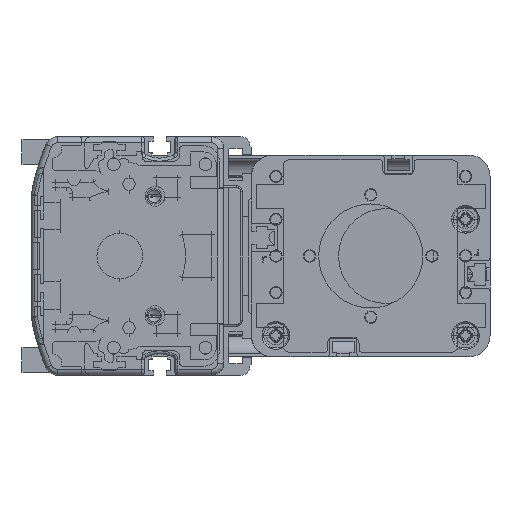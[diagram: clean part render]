
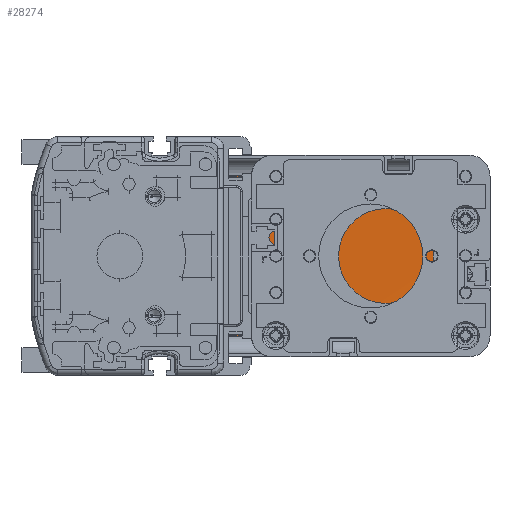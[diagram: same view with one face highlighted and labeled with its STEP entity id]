
A CAD part, left-side view. The second image highlights one B-rep face of the part: STEP entity #28274.
In plain terms, the highlighted spherical face has radius 998.8 mm.
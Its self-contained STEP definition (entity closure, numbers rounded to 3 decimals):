
#9476=CARTESIAN_POINT('',(-71.,-67.569,0.));
#9477=DIRECTION('',(0.,1.,0.));
#9478=DIRECTION('',(1.,0.,0.026));
#9479=AXIS2_PLACEMENT_3D('',#9476,#9477,#9478);
#9499=CARTESIAN_POINT('',(-71.,-67.569,0.));
#9500=DIRECTION('',(0.,1.,0.));
#9501=DIRECTION('',(1.,0.,-0.007));
#9502=AXIS2_PLACEMENT_3D('',#9499,#9500,#9501);
#9511=CARTESIAN_POINT('',(925.688,-67.569,
-6.777));
#9512=CARTESIAN_POINT('',(925.741,-66.776,
-6.493));
#9513=CARTESIAN_POINT('',(925.841,-65.292,
-5.643));
#9514=CARTESIAN_POINT('',(925.952,-63.641,
-3.684));
#9515=CARTESIAN_POINT('',(926.011,-62.764,
-1.279));
#9516=CARTESIAN_POINT('',(926.011,-62.764,1.28));
#9517=CARTESIAN_POINT('',(925.952,-63.642,3.684));
#9518=CARTESIAN_POINT('',(925.841,-65.293,5.644));
#9519=CARTESIAN_POINT('',(925.741,-66.776,6.493));
#9520=CARTESIAN_POINT('',(925.688,-67.569,6.777));
#9538=CARTESIAN_POINT('',(925.688,61.569,6.777));
#9539=CARTESIAN_POINT('',(925.741,60.779,6.494));
#9540=CARTESIAN_POINT('',(925.84,59.299,5.648));
#9541=CARTESIAN_POINT('',(925.952,57.642,3.687));
#9542=CARTESIAN_POINT('',(926.011,56.764,1.28));
#9543=CARTESIAN_POINT('',(926.011,56.764,-1.281));
#9544=CARTESIAN_POINT('',(925.952,57.643,-3.688));
#9545=CARTESIAN_POINT('',(925.84,59.3,-5.649));
#9546=CARTESIAN_POINT('',(925.741,60.78,-6.494));
#9547=CARTESIAN_POINT('',(925.688,61.569,-6.777));
#9549=CARTESIAN_POINT('',(-71.,-3.,-26.152));
#9550=DIRECTION('',(0.,0.,1.));
#9551=DIRECTION('',(0.998,-0.065,0.));
#9552=AXIS2_PLACEMENT_3D('',#9549,#9550,#9551);
#9587=CARTESIAN_POINT('',(-71.,61.569,0.));
#9588=DIRECTION('',(0.,-1.,0.));
#9589=DIRECTION('',(1.,0.,-0.026));
#9590=AXIS2_PLACEMENT_3D('',#9587,#9588,#9589);
#9601=CARTESIAN_POINT('',(-71.,61.569,0.));
#9602=DIRECTION('',(0.,-1.,0.));
#9603=DIRECTION('',(1.,0.,0.007));
#9604=AXIS2_PLACEMENT_3D('',#9601,#9602,#9603);
#9681=CARTESIAN_POINT('',(-71.,-3.,26.152));
#9682=DIRECTION('',(0.,0.,-1.));
#9683=DIRECTION('',(0.998,0.065,0.));
#9684=AXIS2_PLACEMENT_3D('',#9681,#9682,#9683);
#12813=VERTEX_POINT('',#9511);
#12814=VERTEX_POINT('',#9520);
#12815=CARTESIAN_POINT('',(925.368,-67.569,
26.152));
#12816=VERTEX_POINT('',#12815);
#12817=CARTESIAN_POINT('',(925.368,61.569,26.152));
#12818=VERTEX_POINT('',#12817);
#12819=CARTESIAN_POINT('',(925.688,61.569,6.777));
#12820=VERTEX_POINT('',#12819);
#12821=VERTEX_POINT('',#9547);
#12822=CARTESIAN_POINT('',(925.368,61.569,
-26.152));
#12823=VERTEX_POINT('',#12822);
#12824=CARTESIAN_POINT('',(925.368,-67.569,
-26.152));
#12825=VERTEX_POINT('',#12824);
#28254=CARTESIAN_POINT('',(-71.,-3.,0.));
#28255=DIRECTION('',(0.,-1.,0.));
#28256=DIRECTION('',(1.,0.,0.));
#28257=AXIS2_PLACEMENT_3D('',#28254,#28255,#28256);
#28258=SPHERICAL_SURFACE('',#28257,998.8);
#28259=ORIENTED_EDGE('',*,*,#28245,.F.);
#28260=ORIENTED_EDGE('',*,*,#28231,.T.);
#28262=ORIENTED_EDGE('',*,*,#28261,.T.);
#28264=ORIENTED_EDGE('',*,*,#28263,.T.);
#28266=ORIENTED_EDGE('',*,*,#28265,.F.);
#28268=ORIENTED_EDGE('',*,*,#28267,.T.);
#28270=ORIENTED_EDGE('',*,*,#28269,.T.);
#28271=ORIENTED_EDGE('',*,*,#28225,.T.);
#28272=EDGE_LOOP('',(#28259,#28260,#28262,#28264,#28266,#28268,#28270,#28271));
#28273=FACE_OUTER_BOUND('',#28272,.F.);
#28274=ADVANCED_FACE('',(#28273),#28258,.F.);
#9480=CIRCLE('',#9479,996.711);
#9503=CIRCLE('',#9502,996.711);
#9521=B_SPLINE_CURVE_WITH_KNOTS('',3,(#9511,#9512,#9513,#9514,#9515,#9516,#9517,
#9518,#9519,#9520),.UNSPECIFIED.,.F.,.F.,(4,1,1,1,1,1,1,4),(0.,
0.143,0.286,0.429,0.571,
0.714,0.857,1.),.UNSPECIFIED.);
#9548=B_SPLINE_CURVE_WITH_KNOTS('',3,(#9538,#9539,#9540,#9541,#9542,#9543,#9544,
#9545,#9546,#9547),.UNSPECIFIED.,.F.,.F.,(4,1,1,1,1,1,1,4),(0.,
0.143,0.286,0.429,0.571,
0.714,0.857,1.),.UNSPECIFIED.);
#9553=CIRCLE('',#9552,998.458);
#9591=CIRCLE('',#9590,996.711);
#9605=CIRCLE('',#9604,996.711);
#9685=CIRCLE('',#9684,998.458);
#28225=EDGE_CURVE('',#12816,#12814,#9480,.T.);
#28231=EDGE_CURVE('',#12813,#12825,#9503,.T.);
#28245=EDGE_CURVE('',#12813,#12814,#9521,.T.);
#28261=EDGE_CURVE('',#12825,#12823,#9553,.T.);
#28263=EDGE_CURVE('',#12823,#12821,#9591,.T.);
#28265=EDGE_CURVE('',#12820,#12821,#9548,.T.);
#28267=EDGE_CURVE('',#12820,#12818,#9605,.T.);
#28269=EDGE_CURVE('',#12818,#12816,#9685,.T.);
